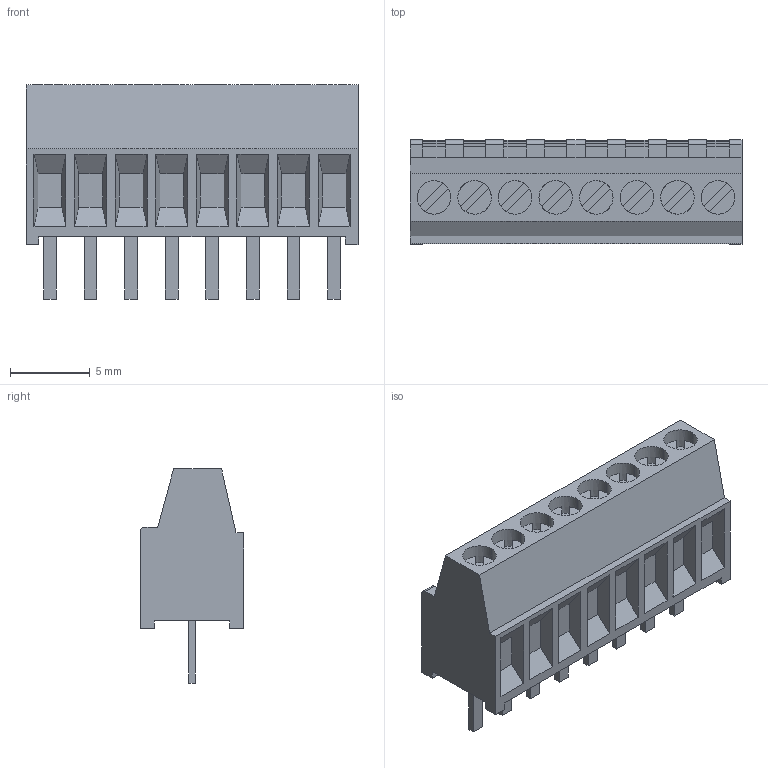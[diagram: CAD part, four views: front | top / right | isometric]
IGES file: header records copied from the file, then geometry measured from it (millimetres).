
Start section:  PTC IGES file: c-282834-8-c-3d.igs
Global section: file name: c-282834-8-c-3d.igs; native system: Pro/ENGINEER by Parametric Technology Corporation; preprocessor: 2005450; author: workeradm; organization: Unknown; date: 081106.131957; units: millimetre
Bounding box: 20.78 x 6.5 x 13.4 mm (x, y, z)
Surface area: 993.3 mm2 (no closed solid volume)
Topology: 0 solids, 0 shells, 239 faces, 1246 edges, 1246 vertices
Faces by surface type: bspline 214, revolution 25
